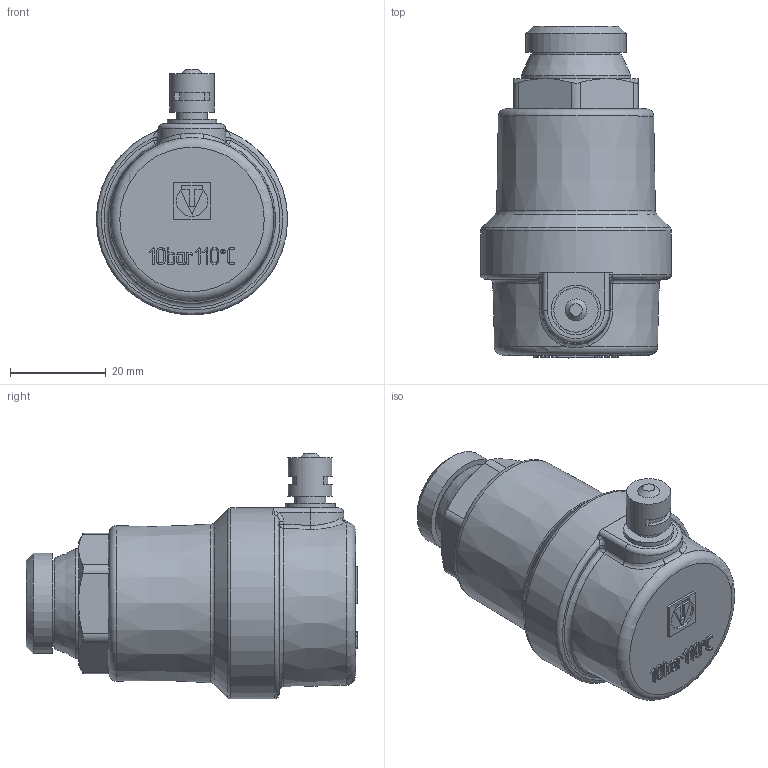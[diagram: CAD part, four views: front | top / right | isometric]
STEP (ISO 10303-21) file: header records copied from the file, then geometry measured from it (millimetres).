
FILE_DESCRIPTION(('STEP AP203'), '1');
FILE_NAME('栖闉罻', '2024-09-10T07:07:17', ('User'), ('Vesta'), 'C3D Converter', 'C3D Toolkit', '');
FILE_SCHEMA(('CONFIG_CONTROL_DESIGN'));
Length unit declared in the file: millimetre
Assembly tree (2 placements, depth 2):
  (unnamed)
    (unnamed)
    (unnamed)
Bounding box: 40 x 69.5 x 51.5 mm (x, y, z)
Volume: 57164.2 mm3; surface area: 11034.8 mm2
Topology: 2 solids, 2 shells, 319 faces, 830 edges, 541 vertices
Faces by surface type: extrusion 141, plane 121, cylinder 25, cone 14, bspline 11, torus 7
Full cylindrical faces by diameter (mm): 6.5 x1, 9.3 x1, 10.4 x1, 15 x1, 17.5 x1, 18.2 x1, 20.955 x1, 22.2 x1, 23 x1, 40 x1
Entity records: 11663 total; most frequent: CARTESIAN_POINT 4462, ORIENTED_EDGE 1616, DIRECTION 1004, EDGE_CURVE 808, VERTEX_POINT 541, VECTOR 540, B_SPLINE_CURVE_WITH_KNOTS 482, LINE 399
